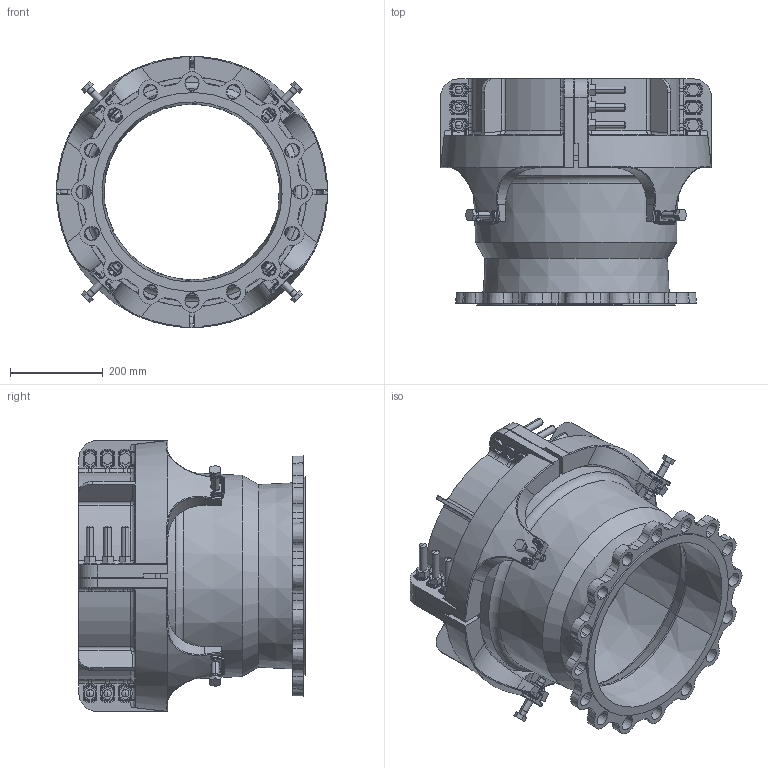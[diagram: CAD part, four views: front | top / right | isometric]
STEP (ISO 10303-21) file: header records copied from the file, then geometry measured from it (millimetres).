
FILE_DESCRIPTION((''),'2;1');
FILE_NAME('13497_3_SW0001','2017-05-05T',('mfairey'),('Glynwed Pipe Systems'),'PRO/ENGINEER BY PARAMETRIC TECHNOLOGY CORPORATION, 2006020','PRO/ENGINEER BY PARAMETRIC TECHNOLOGY CORPORATION, 2006020','');
FILE_SCHEMA(('CONFIG_CONTROL_DESIGN'));
Length unit declared in the file: millimetre
Products named in the file (1): 13497_3_SW0001
Bounding box: 584.91 x 488 x 584.91 mm (x, y, z)
Surface area: 2813845.3 mm2 (no closed solid volume)
Topology: 0 solids, 65 shells, 2090 faces, 5494 edges, 3456 vertices
Faces by surface type: cylinder 682, plane 672, torus 302, bspline 216, cone 134, sphere 84
Entity records: 74226 total; most frequent: CARTESIAN_POINT 23748, DIRECTION 10704, ORIENTED_EDGE 10176, EDGE_CURVE 5462, AXIS2_PLACEMENT_3D 4140, VERTEX_POINT 3456, VECTOR 2424, LINE 2424
